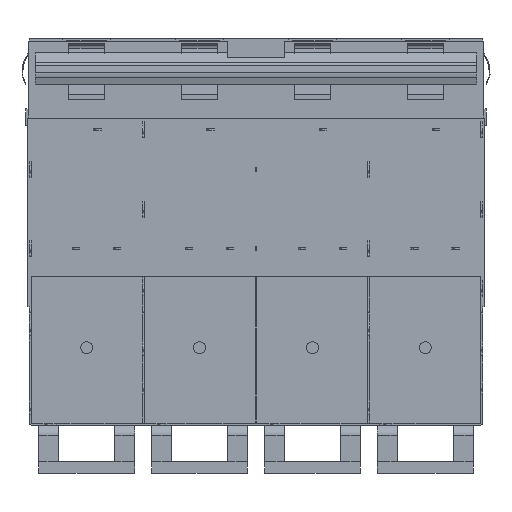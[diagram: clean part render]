
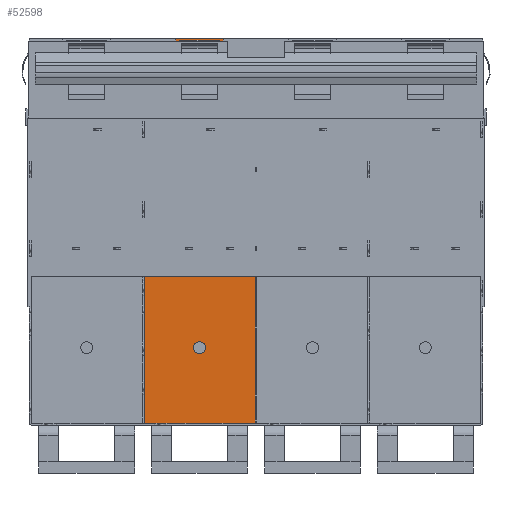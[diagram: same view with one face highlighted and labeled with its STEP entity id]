
A CAD part, front view. The second image highlights one B-rep face of the part: STEP entity #52598.
In plain terms, the highlighted planar face has unit normal (0, -1, 0).
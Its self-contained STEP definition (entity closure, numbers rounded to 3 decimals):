
#1384 = CARTESIAN_POINT ( 'NONE',  ( -7.125, 9.2, -38.225 ) ) ;
#1589 = CIRCLE ( 'NONE', #25632, 0.75 ) ;
#1641 = AXIS2_PLACEMENT_3D ( 'NONE', #45759, #54129, #41279 ) ;
#1995 = VECTOR ( 'NONE', #7501, 1000. ) ;
#2826 = EDGE_LOOP ( 'NONE', ( #36589, #41918 ) ) ;
#3102 = EDGE_CURVE ( 'NONE', #43412, #27203, #45630, .T. ) ;
#3170 = EDGE_CURVE ( 'NONE', #20981, #50018, #26901, .T. ) ;
#3343 = DIRECTION ( 'NONE',  ( 0., 0., -1. ) ) ;
#4095 = DIRECTION ( 'NONE',  ( 0., -1., 0. ) ) ;
#4571 = DIRECTION ( 'NONE',  ( 0., -1., 0. ) ) ;
#4646 = EDGE_CURVE ( 'NONE', #43412, #46966, #4693, .T. ) ;
#4693 = LINE ( 'NONE', #50045, #1995 ) ;
#6237 = FACE_BOUND ( 'NONE', #2826, .T. ) ;
#6621 = VECTOR ( 'NONE', #18000, 1000. ) ;
#7501 = DIRECTION ( 'NONE',  ( -1., 0., 0. ) ) ;
#8496 = EDGE_CURVE ( 'NONE', #50018, #20981, #12300, .T. ) ;
#8797 = ORIENTED_EDGE ( 'NONE', *, *, #4646, .T. ) ;
#9597 = VECTOR ( 'NONE', #3343, 1000. ) ;
#9666 = ORIENTED_EDGE ( 'NONE', *, *, #3102, .F. ) ;
#12300 = CIRCLE ( 'NONE', #1641, 0.75 ) ;
#13009 = CARTESIAN_POINT ( 'NONE',  ( -0.125, 9.2, -48.5 ) ) ;
#13302 = CARTESIAN_POINT ( 'NONE',  ( -0.125, 9.2, 0. ) ) ;
#14792 = CARTESIAN_POINT ( 'NONE',  ( 28.375, 9.2, -106.201 ) ) ;
#15711 = EDGE_LOOP ( 'NONE', ( #9666, #8797, #31454, #51677 ) ) ;
#16571 = CARTESIAN_POINT ( 'NONE',  ( -14.125, 9.2, 0. ) ) ;
#16892 = VECTOR ( 'NONE', #28713, 1000. ) ;
#17132 = DIRECTION ( 'NONE',  ( 0., 0., 1. ) ) ;
#18000 = DIRECTION ( 'NONE',  ( -1., 0., 0. ) ) ;
#18133 = DIRECTION ( 'NONE',  ( 0., 0., 1. ) ) ;
#20981 = VERTEX_POINT ( 'NONE', #1384 ) ;
#22786 = CIRCLE ( 'NONE', #35227, 0.75 ) ;
#23527 = PLANE ( 'NONE',  #54997 ) ;
#25632 = AXIS2_PLACEMENT_3D ( 'NONE', #51232, #4571, #26164 ) ;
#26164 = DIRECTION ( 'NONE',  ( 0., 0., 1. ) ) ;
#26901 = CIRCLE ( 'NONE', #33592, 0.75 ) ;
#27203 = VERTEX_POINT ( 'NONE', #13009 ) ;
#28713 = DIRECTION ( 'NONE',  ( 0., 0., -1. ) ) ;
#31454 = ORIENTED_EDGE ( 'NONE', *, *, #46892, .T. ) ;
#32418 = EDGE_CURVE ( 'NONE', #42439, #47192, #22786, .T. ) ;
#33267 = VERTEX_POINT ( 'NONE', #47692 ) ;
#33592 = AXIS2_PLACEMENT_3D ( 'NONE', #46283, #4095, #17132 ) ;
#33601 = LINE ( 'NONE', #46069, #9597 ) ;
#35227 = AXIS2_PLACEMENT_3D ( 'NONE', #48192, #48579, #18133 ) ;
#35489 = ORIENTED_EDGE ( 'NONE', *, *, #8496, .F. ) ;
#36258 = CARTESIAN_POINT ( 'NONE',  ( -7.125, 9.2, -20.225 ) ) ;
#36422 = EDGE_LOOP ( 'NONE', ( #52361, #35489 ) ) ;
#36589 = ORIENTED_EDGE ( 'NONE', *, *, #32418, .F. ) ;
#36932 = CARTESIAN_POINT ( 'NONE',  ( -7.125, 9.2, -39.725 ) ) ;
#37598 = FACE_OUTER_BOUND ( 'NONE', #15711, .T. ) ;
#38986 = EDGE_CURVE ( 'NONE', #27203, #33267, #45993, .T. ) ;
#41279 = DIRECTION ( 'NONE',  ( 0., 0., 1. ) ) ;
#41918 = ORIENTED_EDGE ( 'NONE', *, *, #52220, .F. ) ;
#42439 = VERTEX_POINT ( 'NONE', #36258 ) ;
#43028 = CARTESIAN_POINT ( 'NONE',  ( 28.375, 9.2, -48.5 ) ) ;
#43412 = VERTEX_POINT ( 'NONE', #13302 ) ;
#44648 = DIRECTION ( 'NONE',  ( 0., 0., 1. ) ) ;
#45630 = LINE ( 'NONE', #50233, #16892 ) ;
#45759 = CARTESIAN_POINT ( 'NONE',  ( -7.125, 9.2, -38.975 ) ) ;
#45993 = LINE ( 'NONE', #43028, #6621 ) ;
#46069 = CARTESIAN_POINT ( 'NONE',  ( -14.125, 9.2, 8.953 ) ) ;
#46283 = CARTESIAN_POINT ( 'NONE',  ( -7.125, 9.2, -38.975 ) ) ;
#46892 = EDGE_CURVE ( 'NONE', #46966, #33267, #33601, .T. ) ;
#46966 = VERTEX_POINT ( 'NONE', #16571 ) ;
#47192 = VERTEX_POINT ( 'NONE', #52013 ) ;
#47692 = CARTESIAN_POINT ( 'NONE',  ( -14.125, 9.2, -48.5 ) ) ;
#48192 = CARTESIAN_POINT ( 'NONE',  ( -7.125, 9.2, -20.975 ) ) ;
#48579 = DIRECTION ( 'NONE',  ( 0., -1., 0. ) ) ;
#48940 = FACE_BOUND ( 'NONE', #36422, .T. ) ;
#50018 = VERTEX_POINT ( 'NONE', #36932 ) ;
#50045 = CARTESIAN_POINT ( 'NONE',  ( 28.375, 9.2, 0. ) ) ;
#50233 = CARTESIAN_POINT ( 'NONE',  ( -0.125, 9.2, 8.953 ) ) ;
#51232 = CARTESIAN_POINT ( 'NONE',  ( -7.125, 9.2, -20.975 ) ) ;
#51677 = ORIENTED_EDGE ( 'NONE', *, *, #38986, .F. ) ;
#52013 = CARTESIAN_POINT ( 'NONE',  ( -7.125, 9.2, -21.725 ) ) ;
#52220 = EDGE_CURVE ( 'NONE', #47192, #42439, #1589, .T. ) ;
#52361 = ORIENTED_EDGE ( 'NONE', *, *, #3170, .F. ) ;
#52598 = ADVANCED_FACE ( 'NONE', ( #6237, #48940, #37598 ), #23527, .F. ) ;
#52869 = DIRECTION ( 'NONE',  ( 0., 1., 0. ) ) ;
#54129 = DIRECTION ( 'NONE',  ( 0., -1., 0. ) ) ;
#54997 = AXIS2_PLACEMENT_3D ( 'NONE', #14792, #52869, #44648 ) ;
